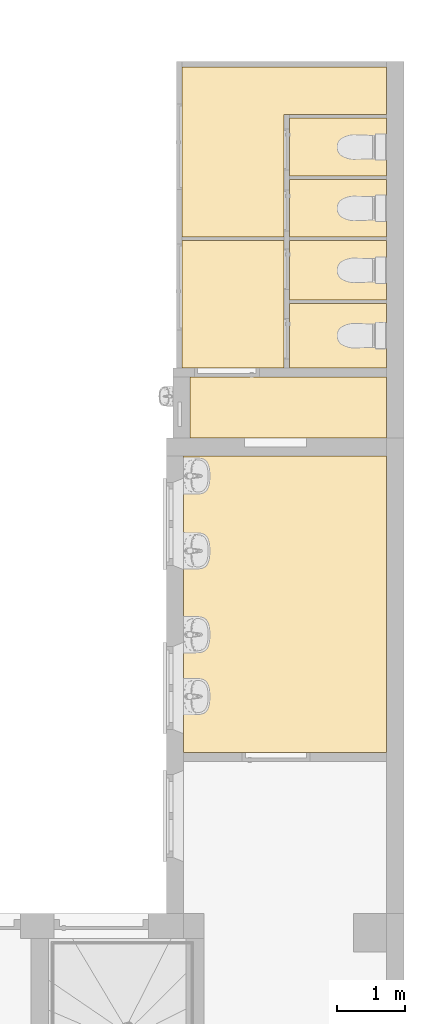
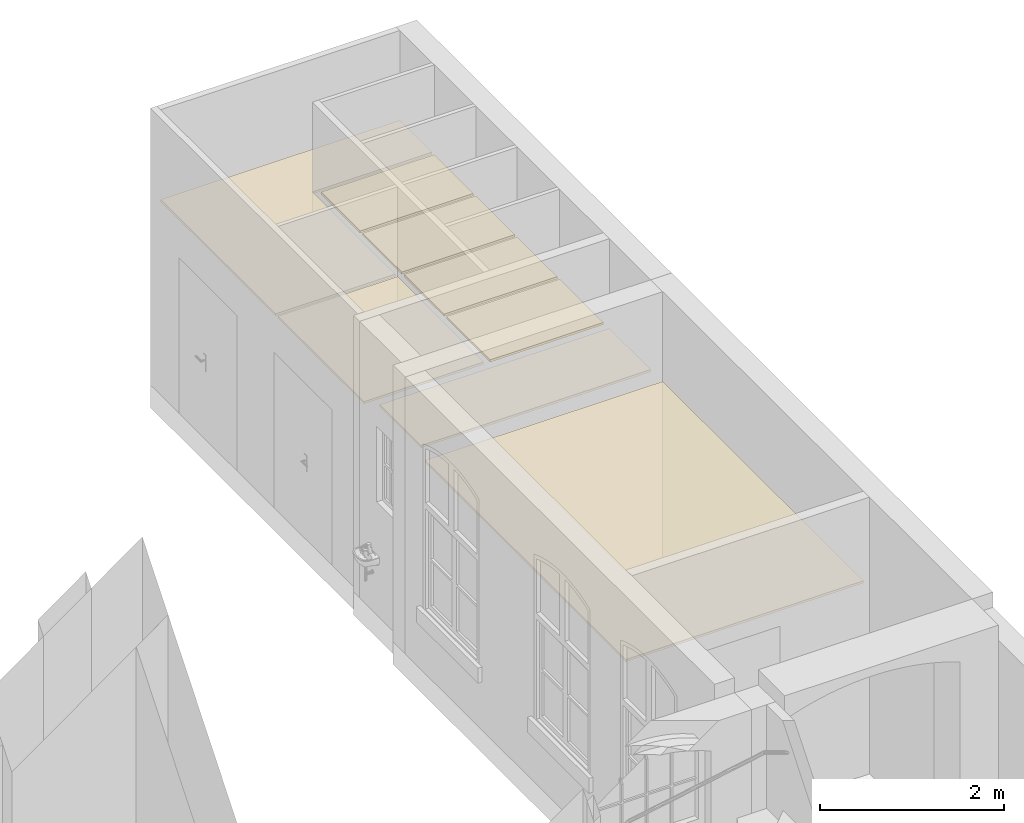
"""IFC4 building model written with IfcOpenShell, lengths in metres."""

from ifc_helpers import new_model, entity, si_unit, converted_unit, derived_unit, frame, frame_2d, origin, place, context, subcontext, project, spatial, polyline, rectangle, outline, extrude, material, layer, layer_set, layer_usage, element, save


model = new_model("IFC4")

# Units and contexts
model_context = context("Model", 3, precision=1e-05, world=origin())
body_context = subcontext(model_context, "Body", "Model", "MODEL_VIEW")
ifc_project = project(units=[si_unit("LENGTHUNIT", "METRE"), si_unit("AREAUNIT", "SQUARE_METRE"), si_unit("VOLUMEUNIT", "CUBIC_METRE"), si_unit("MASSUNIT", "GRAM", prefix="KILO"), converted_unit("PLANEANGLEUNIT", "DEGREE", entity("IfcPlaneAngleMeasure", 0.0174532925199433), si_unit("PLANEANGLEUNIT", "RADIAN"), dimensions=[0, 0, 0, 0, 0, 0, 0]), derived_unit("THERMALTRANSMITTANCEUNIT", [(si_unit("POWERUNIT", "WATT"), 1), (si_unit("THERMODYNAMICTEMPERATUREUNIT", "KELVIN"), -1), (si_unit("LENGTHUNIT", "METRE"), -2)]), derived_unit("VOLUMETRICFLOWRATEUNIT", [(si_unit("LENGTHUNIT", "METRE"), 3), (converted_unit("TIMEUNIT", "hour", entity("IfcTimeMeasure", 3600.0), si_unit("TIMEUNIT", "SECOND"), dimensions=[0, 0, 1, 0, 0, 0, 0]), -1), (si_unit("LENGTHUNIT", "METRE"), -1)])], contexts=[model_context])

# Building, storeys
building_placement = place(None, origin())
building = spatial("IfcBuilding", under=ifc_project, at=building_placement, Name="Bestandsgebäude A - Sporthalle / Wohnhaus (TB 100-499)   ANPASSEN !!!", CompositionType="ELEMENT")
storey_1_placement = place(building_placement, origin())
storey_1 = spatial("IfcBuildingStorey", under=building, at=storey_1_placement, Name="Geb. A Erdgeschoss (TB 200-249)", CompositionType="ELEMENT", Elevation=0.0)
storey_2_placement = place(storey_1_placement, origin())
storey_2 = spatial("IfcBuildingStorey", under=storey_1, at=storey_2_placement, Name="Architektur (TB 200-209)", CompositionType="PARTIAL")

# Coverings
ifc_material_1 = material()
ifc_layer_1 = layer(ifc_material_1, 0.03)
ifc_layer_set_1 = layer_set([ifc_layer_1])
ifc_layer_usage_1 = layer_usage(ifc_layer_set_1, "AXIS3", "POSITIVE", 0.0)
covering_1_placement = place(storey_2_placement, frame((-3.14000000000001, 16.23, 2.48)))
element("IfcCovering", 1, at=covering_1_placement, inside=storey_2, material=ifc_layer_usage_1, PredefinedType="CEILING", context=body_context, shape_type="SweptSolid", body=[
    extrude(rectangle(XDim=0.9, YDim=2.88000000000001, at=frame_2d((-1.44000000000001, 0.449999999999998), x_axis=(-2.52637417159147e-16, 1.0))), frame((2.88000000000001, 0.9, 0.0), z_axis=(0.0, 0.0, -1.0), x_axis=(1.0, 0.0, 0.0)), (0.0, 0.0, 1.0), 0.03),
])
ifc_material_2 = material()
ifc_layer_2 = layer(ifc_material_2, 0.03)
ifc_layer_set_2 = layer_set([ifc_layer_2])
ifc_layer_usage_2 = layer_usage(ifc_layer_set_2, "AXIS3", "POSITIVE", 0.0)
covering_2_placement = place(storey_2_placement, frame((-1.67999999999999, 17.26, 2.48)))
element("IfcCovering", 2, at=covering_2_placement, inside=storey_2, material=ifc_layer_usage_2, PredefinedType="CEILING", context=body_context, shape_type="SweptSolid", body=[
    extrude(rectangle(XDim=1.41999999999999, YDim=0.95, at=frame_2d((0.709999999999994, 0.475000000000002), x_axis=(1.0, 2.56195690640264e-15))), frame((0.0, 0.950000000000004, 0.0), z_axis=(0.0, 0.0, -1.0), x_axis=(1.0, 0.0, 0.0)), (0.0, 0.0, 1.0), 0.03),
])
ifc_material_3 = material()
ifc_layer_3 = layer(ifc_material_3, 0.03)
ifc_layer_set_3 = layer_set([ifc_layer_3])
ifc_layer_usage_3 = layer_usage(ifc_layer_set_3, "AXIS3", "POSITIVE", 0.0)
covering_3_placement = place(storey_2_placement, frame((-1.67999999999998, 18.26, 2.48)))
element("IfcCovering", 3, at=covering_3_placement, inside=storey_2, material=ifc_layer_usage_3, PredefinedType="CEILING", context=body_context, shape_type="SweptSolid", body=[
    extrude(rectangle(XDim=1.41999999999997, YDim=0.870000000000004, at=frame_2d((0.709999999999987, 0.435000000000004), x_axis=(1.0, 2.56195690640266e-15))), frame((0.0, 0.870000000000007, 0.0), z_axis=(0.0, 0.0, -1.0), x_axis=(1.0, 0.0, 0.0)), (0.0, 0.0, 1.0), 0.03),
])
ifc_material_4 = material()
ifc_layer_4 = layer(ifc_material_4, 0.03)
ifc_layer_set_4 = layer_set([ifc_layer_4])
ifc_layer_usage_4 = layer_usage(ifc_layer_set_4, "AXIS3", "POSITIVE", 0.0)
covering_4_placement = place(storey_2_placement, frame((-1.67999999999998, 19.18, 2.48)))
element("IfcCovering", 4, at=covering_4_placement, inside=storey_2, material=ifc_layer_usage_4, PredefinedType="CEILING", context=body_context, shape_type="SweptSolid", body=[
    extrude(rectangle(XDim=1.41999999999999, YDim=0.850000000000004, at=frame_2d((0.709999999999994, 0.425000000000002), x_axis=(1.0, 0.0))), frame((0.0, 0.85, 0.0), z_axis=(0.0, 0.0, -1.0), x_axis=(1.0, 0.0, 0.0)), (0.0, 0.0, 1.0), 0.03),
])
ifc_material_5 = material()
ifc_layer_5 = layer(ifc_material_5, 0.03)
ifc_layer_set_5 = layer_set([ifc_layer_5])
ifc_layer_usage_5 = layer_usage(ifc_layer_set_5, "AXIS3", "POSITIVE", 0.0)
covering_5_placement = place(storey_2_placement, frame((-3.26, 19.18, 2.48)))
element("IfcCovering", 5, at=covering_5_placement, inside=storey_2, material=ifc_layer_usage_5, PredefinedType="CEILING", context=body_context, shape_type="SweptSolid", body=[
    extrude(outline(polyline([(1.50000000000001, 0.7), (1.50000000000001, 2.5), (0.0, 2.49999999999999), (0.0, 0.0), (3.0, 0.0), (3.0, 0.7), (1.50000000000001, 0.7)])), frame((0.0, 2.5, 0.0), z_axis=(0.0, 0.0, -1.0), x_axis=(1.0, 0.0, 0.0)), (0.0, 0.0, 1.0), 0.03),
])
ifc_material_6 = material()
ifc_layer_6 = layer(ifc_material_6, 0.03)
ifc_layer_set_6 = layer_set([ifc_layer_6])
ifc_layer_usage_6 = layer_usage(ifc_layer_set_6, "AXIS3", "POSITIVE", 0.0)
covering_6_placement = place(storey_2_placement, frame((-3.26, 17.26, 2.48)))
element("IfcCovering", 6, at=covering_6_placement, inside=storey_2, material=ifc_layer_usage_6, PredefinedType="CEILING", context=body_context, shape_type="SweptSolid", body=[
    extrude(rectangle(XDim=1.87000000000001, YDim=1.50000000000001, at=frame_2d((-0.750000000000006, 0.935000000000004), x_axis=(0.0, 1.0))), frame((1.50000000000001, 1.87000000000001, 0.0), z_axis=(0.0, 0.0, -1.0), x_axis=(1.0, 0.0, 0.0)), (0.0, 0.0, 1.0), 0.03),
])
ifc_material_7 = material()
ifc_layer_7 = layer(ifc_material_7, 0.03)
ifc_layer_set_7 = layer_set([ifc_layer_7])
ifc_layer_usage_7 = layer_usage(ifc_layer_set_7, "AXIS3", "POSITIVE", 0.0)
covering_7_placement = place(storey_2_placement, frame((-3.24000000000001, 11.61, 2.48)))
element("IfcCovering", 7, at=covering_7_placement, inside=storey_2, material=ifc_layer_usage_7, PredefinedType="CEILING", context=body_context, shape_type="SweptSolid", body=[
    extrude(rectangle(XDim=2.98000000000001, YDim=4.36, at=frame_2d((1.49, 2.18), x_axis=(1.0, 1.22079825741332e-15))), frame((0.0, 4.36, 0.0), z_axis=(0.0, 0.0, -1.0), x_axis=(1.0, 0.0, 0.0)), (0.0, 0.0, 1.0), 0.03),
])
ifc_material_8 = material()
ifc_layer_8 = layer(ifc_material_8, 0.03)
ifc_layer_set_8 = layer_set([ifc_layer_8])
ifc_layer_usage_8 = layer_usage(ifc_layer_set_8, "AXIS3", "POSITIVE", 0.0)
covering_8_placement = place(storey_2_placement, frame((-1.67999999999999, 20.08, 2.48)))
element("IfcCovering", 8, at=covering_8_placement, inside=storey_2, material=ifc_layer_usage_8, PredefinedType="CEILING", context=body_context, shape_type="SweptSolid", body=[
    extrude(rectangle(XDim=1.42, YDim=0.85, at=frame_2d((0.71, 0.425), x_axis=(1.0, 0.0))), frame((0.0, 0.85, 0.0), z_axis=(0.0, 0.0, -1.0), x_axis=(1.0, 0.0, 0.0)), (0.0, 0.0, 1.0), 0.03),
])

save(model, "model.ifc")
